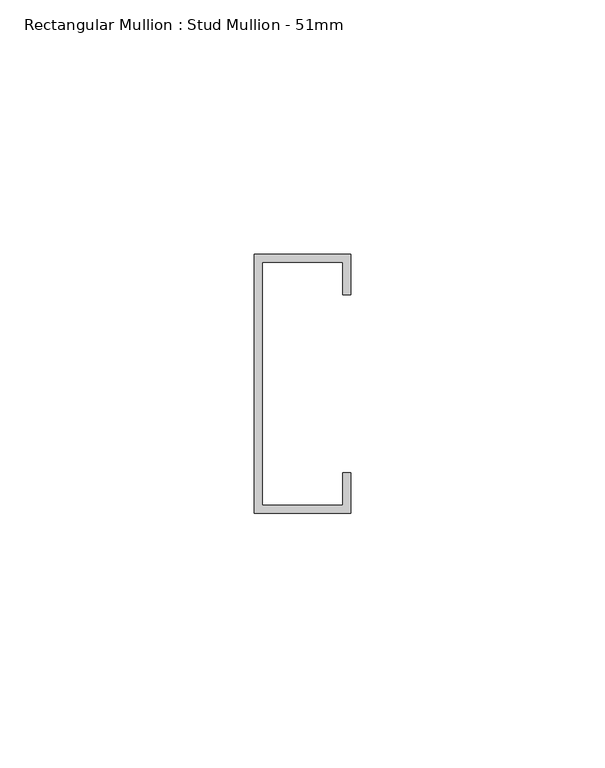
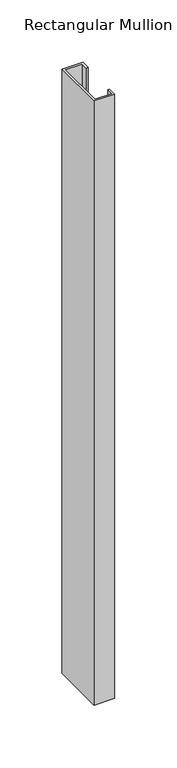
"""IFC4 building model written with IfcOpenShell, lengths in millimetres: member geometry, Rectangular Mullion : Stud Mullion - 51mm."""

from ifc_helpers import new_model, si_unit, frame, origin, place, context, project, spatial, polyline, outline, extrude, source, transform, mapped, element, save


def rectangular_mullion_stud_mullion_51mm_5f447b16(model_context):
    return source(origin(), model_context, "Body", "SweptSolid", [
        extrude(outline(polyline([(0.0, 17.5), (-1.6, 17.5), (-1.6, 23.9), (-17.4, 23.9), (-17.4, -23.9), (-1.6, -23.9), (-1.6, -17.5), (0.0, -17.5), (0.0, -25.5), (-19.0, -25.5), (-19.0, 25.5), (0.0, 25.5), (0.0, 17.5)])), frame((0.0, 0.0, -590.5), z_axis=(0.0, 0.0, 1.0), x_axis=(1.0, 0.0, 0.0)), (0.0, 0.0, 1.0), 590.5),
    ])


if __name__ == "__main__":
    model = new_model("IFC4")
    model_context = context("Model", 3, world=origin())
    ifc_project = project(units=[si_unit("LENGTHUNIT", "METRE", prefix="MILLI")], contexts=[model_context])
    site = spatial("IfcSite", under=ifc_project)
    building = spatial("IfcBuilding", under=site)
    placement = place(None, origin())
    rectangular_mullion_stud_mullion_51mm_shape = rectangular_mullion_stud_mullion_51mm_5f447b16(model_context)
    element("IfcMember", 1, ObjectType="Rectangular Mullion : Stud Mullion - 51mm", at=placement, inside=building, context=model_context, shape_type="MappedRepresentation", body=[
        mapped(rectangular_mullion_stud_mullion_51mm_shape, transform((0.0, 0.0, 0.0), x_axis=(1.0, 0.0, 0.0), y_axis=(0.0, 1.0, 0.0), z_axis=(0.0, 0.0, 1.0))),
    ])
    save(model, "model.ifc")
